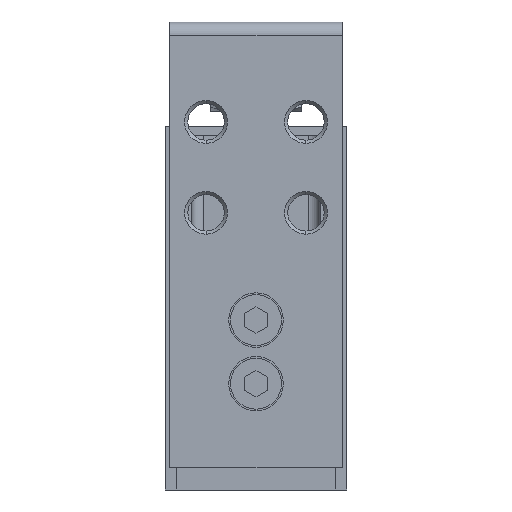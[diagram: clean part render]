
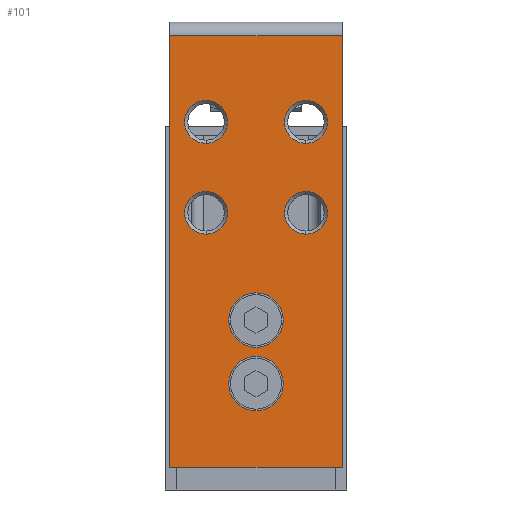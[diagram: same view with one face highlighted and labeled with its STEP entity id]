
A CAD part, left-side view. The second image highlights one B-rep face of the part: STEP entity #101.
In plain terms, the highlighted planar face has unit normal (-1, 0, 0).
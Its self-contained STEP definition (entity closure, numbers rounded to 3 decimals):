
#46 = CARTESIAN_POINT ( 'NONE',  ( -30.5, 9.5, -10. ) ) ;
#101 = ADVANCED_FACE ( 'NONE', ( #11946, #3029, #8938, #3274, #3399, #414, #6159 ), #8278, .F. ) ;
#115 = CARTESIAN_POINT ( 'NONE',  ( -30.5, 0., 9.2 ) ) ;
#155 = CARTESIAN_POINT ( 'NONE',  ( -30.5, 0., -0.8 ) ) ;
#260 = EDGE_CURVE ( 'NONE', #6108, #5806, #8087, .T. ) ;
#334 = EDGE_CURVE ( 'NONE', #6567, #2892, #12715, .T. ) ;
#374 = VERTEX_POINT ( 'NONE', #5072 ) ;
#414 = FACE_BOUND ( 'NONE', #10988, .T. ) ;
#437 = EDGE_CURVE ( 'NONE', #374, #5197, #8277, .T. ) ;
#861 = CIRCLE ( 'NONE', #5794, 2.35 ) ;
#975 = ORIENTED_EDGE ( 'NONE', *, *, #12446, .F. ) ;
#1006 = DIRECTION ( 'NONE',  ( -1., 0., 0. ) ) ;
#1026 = ORIENTED_EDGE ( 'NONE', *, *, #3034, .F. ) ;
#1039 = CARTESIAN_POINT ( 'NONE',  ( -30.5, -5.5, 18. ) ) ;
#1043 = ORIENTED_EDGE ( 'NONE', *, *, #3401, .F. ) ;
#1283 = AXIS2_PLACEMENT_3D ( 'NONE', #10276, #9118, #10342 ) ;
#1492 = AXIS2_PLACEMENT_3D ( 'NONE', #10474, #2749, #2547 ) ;
#1728 = CARTESIAN_POINT ( 'NONE',  ( -30.5, 5.5, 20.35 ) ) ;
#1774 = CARTESIAN_POINT ( 'NONE',  ( -30.5, 0., 6.2 ) ) ;
#1900 = VECTOR ( 'NONE', #11498, 1000. ) ;
#1927 = LINE ( 'NONE', #46, #2803 ) ;
#2104 = ORIENTED_EDGE ( 'NONE', *, *, #4756, .F. ) ;
#2196 = DIRECTION ( 'NONE',  ( -1., 0., 0. ) ) ;
#2263 = CARTESIAN_POINT ( 'NONE',  ( -30.5, -5.5, 18. ) ) ;
#2339 = DIRECTION ( 'NONE',  ( -1., 0., 0. ) ) ;
#2472 = ORIENTED_EDGE ( 'NONE', *, *, #10878, .F. ) ;
#2509 = EDGE_CURVE ( 'NONE', #7686, #5380, #6819, .T. ) ;
#2547 = DIRECTION ( 'NONE',  ( 0., 0., 1. ) ) ;
#2738 = VECTOR ( 'NONE', #11697, 1000. ) ;
#2749 = DIRECTION ( 'NONE',  ( -1., 0., 0. ) ) ;
#2803 = VECTOR ( 'NONE', #6750, 1000. ) ;
#2870 = EDGE_CURVE ( 'NONE', #2892, #4427, #7581, .T. ) ;
#2892 = VERTEX_POINT ( 'NONE', #12254 ) ;
#3029 = FACE_BOUND ( 'NONE', #4121, .T. ) ;
#3034 = EDGE_CURVE ( 'NONE', #6589, #4427, #11746, .T. ) ;
#3187 = DIRECTION ( 'NONE',  ( 0., 0., 1. ) ) ;
#3274 = FACE_BOUND ( 'NONE', #8860, .T. ) ;
#3287 = CARTESIAN_POINT ( 'NONE',  ( -30.5, 0., -0.8 ) ) ;
#3399 = FACE_BOUND ( 'NONE', #8887, .T. ) ;
#3401 = EDGE_CURVE ( 'NONE', #11425, #10961, #861, .T. ) ;
#3621 = DIRECTION ( 'NONE',  ( 0., 0., 1. ) ) ;
#3701 = CARTESIAN_POINT ( 'NONE',  ( -30.5, -9.5, -10. ) ) ;
#3788 = CARTESIAN_POINT ( 'NONE',  ( -30.5, 5.5, 30.35 ) ) ;
#4101 = CIRCLE ( 'NONE', #4908, 2.35 ) ;
#4121 = EDGE_LOOP ( 'NONE', ( #8452, #4374 ) ) ;
#4234 = CARTESIAN_POINT ( 'NONE',  ( -30.5, -5.5, 28. ) ) ;
#4308 = ORIENTED_EDGE ( 'NONE', *, *, #5830, .F. ) ;
#4374 = ORIENTED_EDGE ( 'NONE', *, *, #4914, .F. ) ;
#4427 = VERTEX_POINT ( 'NONE', #8594 ) ;
#4437 = CARTESIAN_POINT ( 'NONE',  ( -30.5, 9.5, 37.5 ) ) ;
#4510 = CIRCLE ( 'NONE', #8609, 2.35 ) ;
#4588 = CARTESIAN_POINT ( 'NONE',  ( -30.5, 5.5, 18. ) ) ;
#4606 = AXIS2_PLACEMENT_3D ( 'NONE', #12093, #6235, #10171 ) ;
#4733 = DIRECTION ( 'NONE',  ( 0., 0., 1. ) ) ;
#4756 = EDGE_CURVE ( 'NONE', #11115, #8558, #6122, .T. ) ;
#4897 = CIRCLE ( 'NONE', #5516, 3. ) ;
#4908 = AXIS2_PLACEMENT_3D ( 'NONE', #6188, #9222, #3187 ) ;
#4914 = EDGE_CURVE ( 'NONE', #5380, #7686, #4897, .T. ) ;
#4944 = DIRECTION ( 'NONE',  ( 0., 0., 1. ) ) ;
#4946 = DIRECTION ( 'NONE',  ( 0., 0., 1. ) ) ;
#5072 = CARTESIAN_POINT ( 'NONE',  ( -30.5, -5.5, 25.65 ) ) ;
#5168 = DIRECTION ( 'NONE',  ( -1., 0., 0. ) ) ;
#5197 = VERTEX_POINT ( 'NONE', #10714 ) ;
#5263 = DIRECTION ( 'NONE',  ( 0., 0., 1. ) ) ;
#5281 = CARTESIAN_POINT ( 'NONE',  ( -30.5, 0., 3.2 ) ) ;
#5316 = EDGE_LOOP ( 'NONE', ( #5821, #12705, #1026, #6420 ) ) ;
#5380 = VERTEX_POINT ( 'NONE', #11092 ) ;
#5516 = AXIS2_PLACEMENT_3D ( 'NONE', #155, #1006, #4946 ) ;
#5742 = ORIENTED_EDGE ( 'NONE', *, *, #437, .F. ) ;
#5794 = AXIS2_PLACEMENT_3D ( 'NONE', #2263, #5168, #10002 ) ;
#5806 = VERTEX_POINT ( 'NONE', #10277 ) ;
#5821 = ORIENTED_EDGE ( 'NONE', *, *, #334, .T. ) ;
#5830 = EDGE_CURVE ( 'NONE', #5806, #6108, #6316, .T. ) ;
#6044 = CARTESIAN_POINT ( 'NONE',  ( -30.5, -5.5, 28. ) ) ;
#6108 = VERTEX_POINT ( 'NONE', #3788 ) ;
#6122 = CIRCLE ( 'NONE', #6318, 3. ) ;
#6159 = FACE_OUTER_BOUND ( 'NONE', #5316, .T. ) ;
#6188 = CARTESIAN_POINT ( 'NONE',  ( -30.5, 5.5, 18. ) ) ;
#6202 = EDGE_CURVE ( 'NONE', #8855, #9112, #4510, .T. ) ;
#6235 = DIRECTION ( 'NONE',  ( -1., 0., 0. ) ) ;
#6316 = CIRCLE ( 'NONE', #12474, 2.35 ) ;
#6318 = AXIS2_PLACEMENT_3D ( 'NONE', #1774, #8673, #12571 ) ;
#6420 = ORIENTED_EDGE ( 'NONE', *, *, #8413, .T. ) ;
#6424 = CIRCLE ( 'NONE', #9515, 2.35 ) ;
#6464 = ORIENTED_EDGE ( 'NONE', *, *, #260, .F. ) ;
#6567 = VERTEX_POINT ( 'NONE', #3701 ) ;
#6589 = VERTEX_POINT ( 'NONE', #10807 ) ;
#6750 = DIRECTION ( 'NONE',  ( 0., -1., 0. ) ) ;
#6751 = AXIS2_PLACEMENT_3D ( 'NONE', #6044, #9985, #4733 ) ;
#6819 = CIRCLE ( 'NONE', #8472, 3. ) ;
#6844 = CIRCLE ( 'NONE', #4606, 3. ) ;
#6964 = CARTESIAN_POINT ( 'NONE',  ( -30.5, -5.5, 15.65 ) ) ;
#7061 = AXIS2_PLACEMENT_3D ( 'NONE', #4234, #2339, #12118 ) ;
#7581 = LINE ( 'NONE', #4437, #1900 ) ;
#7686 = VERTEX_POINT ( 'NONE', #7888 ) ;
#7709 = CARTESIAN_POINT ( 'NONE',  ( -30.5, 9.5, 39. ) ) ;
#7888 = CARTESIAN_POINT ( 'NONE',  ( -30.5, 0., 2.2 ) ) ;
#7998 = DIRECTION ( 'NONE',  ( 0., 0., 1. ) ) ;
#8087 = CIRCLE ( 'NONE', #1492, 2.35 ) ;
#8277 = CIRCLE ( 'NONE', #7061, 2.35 ) ;
#8278 = PLANE ( 'NONE',  #1283 ) ;
#8370 = DIRECTION ( 'NONE',  ( -1., 0., 0. ) ) ;
#8413 = EDGE_CURVE ( 'NONE', #6589, #6567, #1927, .T. ) ;
#8452 = ORIENTED_EDGE ( 'NONE', *, *, #2509, .F. ) ;
#8472 = AXIS2_PLACEMENT_3D ( 'NONE', #3287, #2196, #11132 ) ;
#8558 = VERTEX_POINT ( 'NONE', #115 ) ;
#8594 = CARTESIAN_POINT ( 'NONE',  ( -30.5, 9.5, 37.5 ) ) ;
#8609 = AXIS2_PLACEMENT_3D ( 'NONE', #4588, #8370, #3621 ) ;
#8673 = DIRECTION ( 'NONE',  ( -1., 0., 0. ) ) ;
#8758 = EDGE_CURVE ( 'NONE', #9112, #8855, #4101, .T. ) ;
#8855 = VERTEX_POINT ( 'NONE', #10446 ) ;
#8860 = EDGE_LOOP ( 'NONE', ( #975, #5742 ) ) ;
#8865 = CARTESIAN_POINT ( 'NONE',  ( -30.5, -9.5, 39. ) ) ;
#8887 = EDGE_LOOP ( 'NONE', ( #9030, #11153 ) ) ;
#8938 = FACE_BOUND ( 'NONE', #11393, .T. ) ;
#9030 = ORIENTED_EDGE ( 'NONE', *, *, #8758, .F. ) ;
#9112 = VERTEX_POINT ( 'NONE', #1728 ) ;
#9118 = DIRECTION ( 'NONE',  ( 1., 0., 0. ) ) ;
#9222 = DIRECTION ( 'NONE',  ( -1., 0., 0. ) ) ;
#9515 = AXIS2_PLACEMENT_3D ( 'NONE', #1039, #10768, #7998 ) ;
#9985 = DIRECTION ( 'NONE',  ( -1., 0., 0. ) ) ;
#10002 = DIRECTION ( 'NONE',  ( 0., 0., 1. ) ) ;
#10053 = CIRCLE ( 'NONE', #6751, 2.35 ) ;
#10171 = DIRECTION ( 'NONE',  ( 0., 0., 1. ) ) ;
#10207 = ORIENTED_EDGE ( 'NONE', *, *, #11111, .F. ) ;
#10276 = CARTESIAN_POINT ( 'NONE',  ( -30.5, 9.5, 39. ) ) ;
#10277 = CARTESIAN_POINT ( 'NONE',  ( -30.5, 5.5, 25.65 ) ) ;
#10342 = DIRECTION ( 'NONE',  ( 0., 0., -1. ) ) ;
#10434 = EDGE_LOOP ( 'NONE', ( #10207, #2104 ) ) ;
#10446 = CARTESIAN_POINT ( 'NONE',  ( -30.5, 5.5, 15.65 ) ) ;
#10474 = CARTESIAN_POINT ( 'NONE',  ( -30.5, 5.5, 28. ) ) ;
#10714 = CARTESIAN_POINT ( 'NONE',  ( -30.5, -5.5, 30.35 ) ) ;
#10768 = DIRECTION ( 'NONE',  ( -1., 0., 0. ) ) ;
#10807 = CARTESIAN_POINT ( 'NONE',  ( -30.5, 9.5, -10. ) ) ;
#10878 = EDGE_CURVE ( 'NONE', #10961, #11425, #6424, .T. ) ;
#10945 = CARTESIAN_POINT ( 'NONE',  ( -30.5, -5.5, 20.35 ) ) ;
#10956 = VECTOR ( 'NONE', #4944, 1000. ) ;
#10961 = VERTEX_POINT ( 'NONE', #6964 ) ;
#10988 = EDGE_LOOP ( 'NONE', ( #1043, #2472 ) ) ;
#11092 = CARTESIAN_POINT ( 'NONE',  ( -30.5, 0., -3.8 ) ) ;
#11111 = EDGE_CURVE ( 'NONE', #8558, #11115, #6844, .T. ) ;
#11115 = VERTEX_POINT ( 'NONE', #5281 ) ;
#11132 = DIRECTION ( 'NONE',  ( 0., 0., 1. ) ) ;
#11153 = ORIENTED_EDGE ( 'NONE', *, *, #6202, .F. ) ;
#11176 = DIRECTION ( 'NONE',  ( -1., 0., 0. ) ) ;
#11393 = EDGE_LOOP ( 'NONE', ( #6464, #4308 ) ) ;
#11425 = VERTEX_POINT ( 'NONE', #10945 ) ;
#11498 = DIRECTION ( 'NONE',  ( 0., 1., 0. ) ) ;
#11697 = DIRECTION ( 'NONE',  ( 0., 0., 1. ) ) ;
#11746 = LINE ( 'NONE', #7709, #10956 ) ;
#11946 = FACE_BOUND ( 'NONE', #10434, .T. ) ;
#12070 = CARTESIAN_POINT ( 'NONE',  ( -30.5, 5.5, 28. ) ) ;
#12093 = CARTESIAN_POINT ( 'NONE',  ( -30.5, 0., 6.2 ) ) ;
#12118 = DIRECTION ( 'NONE',  ( 0., 0., 1. ) ) ;
#12254 = CARTESIAN_POINT ( 'NONE',  ( -30.5, -9.5, 37.5 ) ) ;
#12446 = EDGE_CURVE ( 'NONE', #5197, #374, #10053, .T. ) ;
#12474 = AXIS2_PLACEMENT_3D ( 'NONE', #12070, #11176, #5263 ) ;
#12571 = DIRECTION ( 'NONE',  ( 0., 0., 1. ) ) ;
#12705 = ORIENTED_EDGE ( 'NONE', *, *, #2870, .T. ) ;
#12715 = LINE ( 'NONE', #8865, #2738 ) ;
